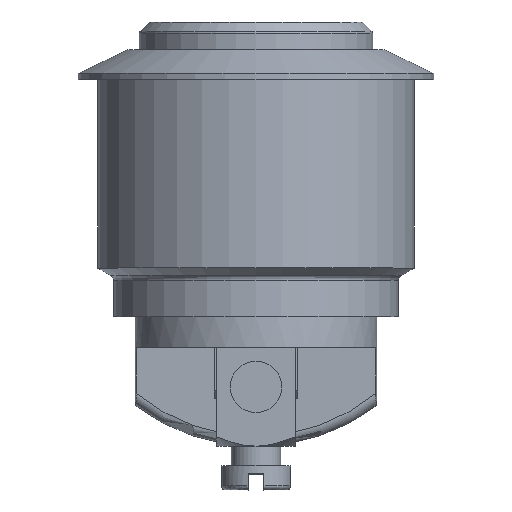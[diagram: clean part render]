
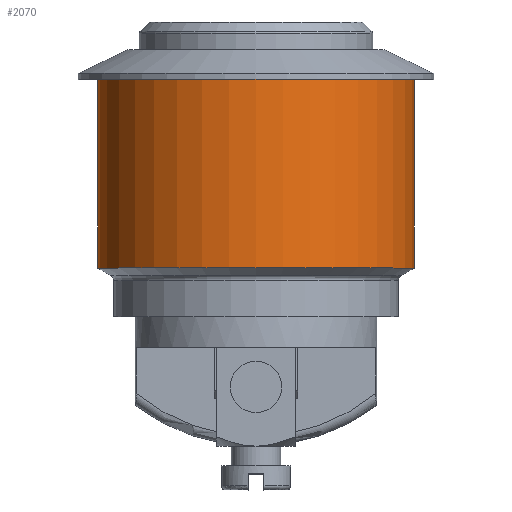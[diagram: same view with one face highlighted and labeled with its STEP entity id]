
A CAD part, top view. The second image highlights one B-rep face of the part: STEP entity #2070.
In plain terms, the highlighted cylindrical face has radius 8 mm (diameter 16 mm), a partial arc.
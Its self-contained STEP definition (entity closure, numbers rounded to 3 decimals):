
#161=DIRECTION('',(0.,1.,0.));
#162=VECTOR('',#161,9.538);
#163=CARTESIAN_POINT('',(8.,4.012,0.));
#164=LINE('',#163,#162);
#165=DIRECTION('',(0.,1.,0.));
#166=VECTOR('',#165,9.538);
#167=CARTESIAN_POINT('',(-8.,4.012,0.));
#168=LINE('',#167,#166);
#174=CARTESIAN_POINT('',(0.,4.012,0.));
#175=DIRECTION('',(0.,-1.,0.));
#176=DIRECTION('',(1.,0.,0.));
#177=AXIS2_PLACEMENT_3D('',#174,#175,#176);
#184=CARTESIAN_POINT('',(0.,13.55,0.));
#185=DIRECTION('',(0.,-1.,0.));
#186=DIRECTION('',(1.,0.,0.));
#187=AXIS2_PLACEMENT_3D('',#184,#185,#186);
#1627=CARTESIAN_POINT('',(8.,4.012,0.));
#1628=CARTESIAN_POINT('',(8.,13.55,0.));
#1629=VERTEX_POINT('',#1627);
#1630=VERTEX_POINT('',#1628);
#1637=CARTESIAN_POINT('',(-8.,4.012,0.));
#1638=CARTESIAN_POINT('',(-8.,13.55,0.));
#1639=VERTEX_POINT('',#1637);
#1640=VERTEX_POINT('',#1638);
#2058=CARTESIAN_POINT('',(0.,15.725,0.));
#2059=DIRECTION('',(0.,-1.,0.));
#2060=DIRECTION('',(-1.,0.,0.));
#2061=AXIS2_PLACEMENT_3D('',#2058,#2059,#2060);
#2062=CYLINDRICAL_SURFACE('',#2061,8.);
#2063=ORIENTED_EDGE('',*,*,#2048,.F.);
#2064=ORIENTED_EDGE('',*,*,#1997,.T.);
#2065=ORIENTED_EDGE('',*,*,#2052,.T.);
#2067=ORIENTED_EDGE('',*,*,#2066,.F.);
#2068=EDGE_LOOP('',(#2063,#2064,#2065,#2067));
#2069=FACE_OUTER_BOUND('',#2068,.F.);
#2070=ADVANCED_FACE('',(#2069),#2062,.T.);
#178=CIRCLE('',#177,8.);
#188=CIRCLE('',#187,8.);
#1997=EDGE_CURVE('',#1629,#1639,#178,.T.);
#2048=EDGE_CURVE('',#1629,#1630,#164,.T.);
#2052=EDGE_CURVE('',#1639,#1640,#168,.T.);
#2066=EDGE_CURVE('',#1630,#1640,#188,.T.);
